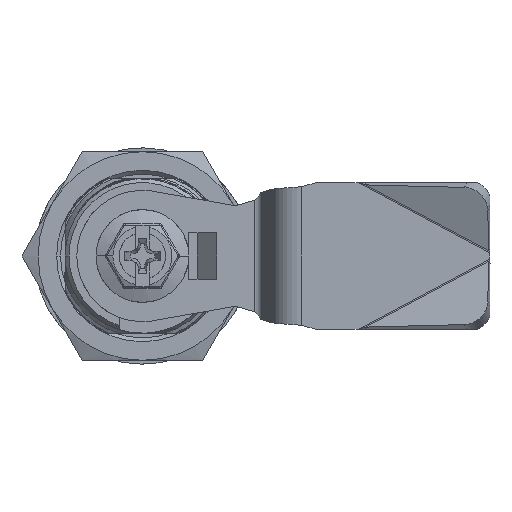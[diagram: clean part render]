
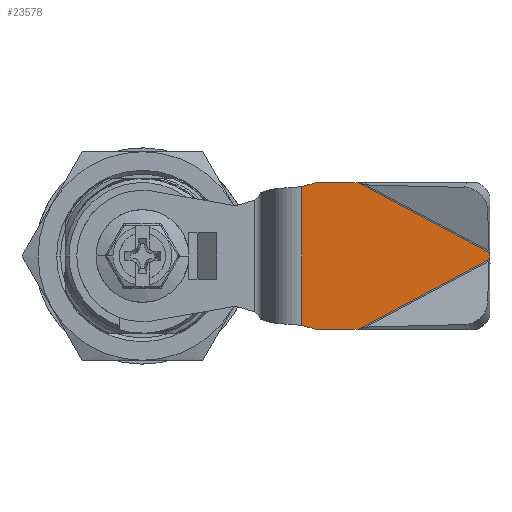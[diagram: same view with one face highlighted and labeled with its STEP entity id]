
A CAD part, front view. The second image highlights one B-rep face of the part: STEP entity #23578.
In plain terms, the highlighted planar face has unit normal (0, -1, 0).
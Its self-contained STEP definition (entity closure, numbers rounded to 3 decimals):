
#1012 = VERTEX_POINT ( 'NONE', #27581 ) ;
#1506 = ORIENTED_EDGE ( 'NONE', *, *, #13170, .F. ) ;
#2598 = ORIENTED_EDGE ( 'NONE', *, *, #22099, .T. ) ;
#3109 = ORIENTED_EDGE ( 'NONE', *, *, #47393, .F. ) ;
#3312 = EDGE_CURVE ( 'NONE', #8164, #18024, #23866, .T. ) ;
#3369 = CARTESIAN_POINT ( 'NONE',  ( 21.559, -9., 9.231 ) ) ;
#3571 = VERTEX_POINT ( 'NONE', #47850 ) ;
#4313 = VECTOR ( 'NONE', #38551, 1000. ) ;
#4521 = DIRECTION ( 'NONE',  ( -1., 0., 0. ) ) ;
#5803 = CARTESIAN_POINT ( 'NONE',  ( 45., -9., -0.425 ) ) ;
#6971 = CARTESIAN_POINT ( 'NONE',  ( 22.5, -9., 9.5 ) ) ;
#7221 = DIRECTION ( 'NONE',  ( 0., 0., 1. ) ) ;
#8164 = VERTEX_POINT ( 'NONE', #36254 ) ;
#10006 = LINE ( 'NONE', #49050, #21058 ) ;
#10022 = DIRECTION ( 'NONE',  ( -0.883, 0., -0.469 ) ) ;
#10383 = VERTEX_POINT ( 'NONE', #12030 ) ;
#11766 = CARTESIAN_POINT ( 'NONE',  ( 27.917, -9., 9.5 ) ) ;
#12030 = CARTESIAN_POINT ( 'NONE',  ( 22.5, -9., -9.5 ) ) ;
#12934 = ORIENTED_EDGE ( 'NONE', *, *, #49598, .F. ) ;
#13170 = EDGE_CURVE ( 'NONE', #19617, #51597, #16223, .T. ) ;
#14813 = DIRECTION ( 'NONE',  ( 0., 1., 0. ) ) ;
#15169 = LINE ( 'NONE', #18053, #4313 ) ;
#15319 = CARTESIAN_POINT ( 'NONE',  ( 45., -9., -9.5 ) ) ;
#15948 = DIRECTION ( 'NONE',  ( 0.962, 0., 0.275 ) ) ;
#16223 = LINE ( 'NONE', #31523, #40630 ) ;
#18024 = VERTEX_POINT ( 'NONE', #6971 ) ;
#18053 = CARTESIAN_POINT ( 'NONE',  ( 45., -9., 0. ) ) ;
#18470 = EDGE_CURVE ( 'NONE', #1012, #10383, #10006, .T. ) ;
#19617 = VERTEX_POINT ( 'NONE', #11766 ) ;
#21058 = VECTOR ( 'NONE', #29170, 1000. ) ;
#22099 = EDGE_CURVE ( 'NONE', #19617, #18024, #40522, .T. ) ;
#23578 = ADVANCED_FACE ( 'NONE', ( #51486 ), #43418, .F. ) ;
#23866 = LINE ( 'NONE', #3369, #36412 ) ;
#24012 = EDGE_LOOP ( 'NONE', ( #2598, #29028, #3109, #47918, #42470, #12934, #27832, #1506 ) ) ;
#27581 = CARTESIAN_POINT ( 'NONE',  ( 27.917, -9., -9.5 ) ) ;
#27832 = ORIENTED_EDGE ( 'NONE', *, *, #39821, .T. ) ;
#29028 = ORIENTED_EDGE ( 'NONE', *, *, #3312, .F. ) ;
#29170 = DIRECTION ( 'NONE',  ( -1., 0., 0. ) ) ;
#29489 = VECTOR ( 'NONE', #33172, 1000. ) ;
#30516 = LINE ( 'NONE', #42830, #31851 ) ;
#31523 = CARTESIAN_POINT ( 'NONE',  ( 27.917, -9., 9.5 ) ) ;
#31851 = VECTOR ( 'NONE', #34961, 1000. ) ;
#32402 = CARTESIAN_POINT ( 'NONE',  ( 32.809, -9., 9.5 ) ) ;
#33172 = DIRECTION ( 'NONE',  ( 0., 0., 1. ) ) ;
#33348 = CARTESIAN_POINT ( 'NONE',  ( 45., -9., 0.425 ) ) ;
#34961 = DIRECTION ( 'NONE',  ( 0.962, 0., -0.275 ) ) ;
#36254 = CARTESIAN_POINT ( 'NONE',  ( 20.618, -9., 8.962 ) ) ;
#36412 = VECTOR ( 'NONE', #15948, 1000. ) ;
#38116 = CARTESIAN_POINT ( 'NONE',  ( 20.618, -9., -9.5 ) ) ;
#38225 = VECTOR ( 'NONE', #4521, 1000. ) ;
#38551 = DIRECTION ( 'NONE',  ( 0., 0., 1. ) ) ;
#39110 = DIRECTION ( 'NONE',  ( 0.883, 0., -0.469 ) ) ;
#39526 = CARTESIAN_POINT ( 'NONE',  ( 20.618, -9., -8.962 ) ) ;
#39821 = EDGE_CURVE ( 'NONE', #3571, #51597, #15169, .T. ) ;
#40522 = LINE ( 'NONE', #32402, #38225 ) ;
#40630 = VECTOR ( 'NONE', #39110, 1000. ) ;
#40949 = AXIS2_PLACEMENT_3D ( 'NONE', #15319, #14813, #7221 ) ;
#41763 = LINE ( 'NONE', #5803, #48503 ) ;
#42470 = ORIENTED_EDGE ( 'NONE', *, *, #18470, .F. ) ;
#42830 = CARTESIAN_POINT ( 'NONE',  ( 21.559, -9., -9.231 ) ) ;
#43418 = PLANE ( 'NONE',  #40949 ) ;
#45461 = LINE ( 'NONE', #38116, #29489 ) ;
#46755 = EDGE_CURVE ( 'NONE', #49241, #10383, #30516, .T. ) ;
#47393 = EDGE_CURVE ( 'NONE', #49241, #8164, #45461, .T. ) ;
#47850 = CARTESIAN_POINT ( 'NONE',  ( 45., -9., -0.425 ) ) ;
#47918 = ORIENTED_EDGE ( 'NONE', *, *, #46755, .T. ) ;
#48503 = VECTOR ( 'NONE', #10022, 1000. ) ;
#49050 = CARTESIAN_POINT ( 'NONE',  ( 32.809, -9., -9.5 ) ) ;
#49241 = VERTEX_POINT ( 'NONE', #39526 ) ;
#49598 = EDGE_CURVE ( 'NONE', #3571, #1012, #41763, .T. ) ;
#51486 = FACE_OUTER_BOUND ( 'NONE', #24012, .T. ) ;
#51597 = VERTEX_POINT ( 'NONE', #33348 ) ;
